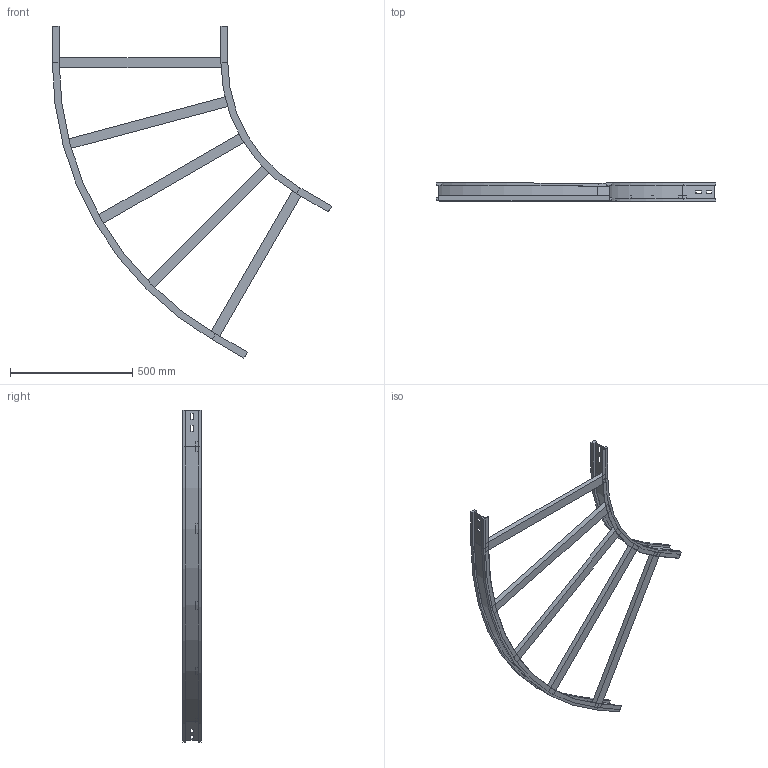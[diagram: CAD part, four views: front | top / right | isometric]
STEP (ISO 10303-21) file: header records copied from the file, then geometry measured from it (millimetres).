
FILE_DESCRIPTION (( 'STEP AP214' ), '1' );
FILE_NAME ('13S6C700.step', '2025-02-21T16:08:33', ( '' ), ( '' ), 'SwSTEP 2.0', 'SolidWorks 2023', '' );
FILE_SCHEMA (( 'AUTOMOTIVE_DESIGN' ));
Length unit declared in the file: millimetre
Products named in the file (4): TRAVERSINO_700; LONGH.ESTERNO 60°_H75_R600+700; 13S6C700; LONGH.INTERNO 60°_H75_R600
Assembly tree (7 placements, depth 2):
  13S6C700
    LONGH.INTERNO 60°_H75_R600
    LONGH.ESTERNO 60°_H75_R600+700
    TRAVERSINO_700  x5
Bounding box: 1143.4 x 75 x 1358.63 mm (x, y, z)
Volume: 4096212.5 mm3; surface area: 1068621.8 mm2
Topology: 7 solids, 7 shells, 138 faces, 324 edges, 200 vertices
Faces by surface type: plane 126, cylinder 12
Entity records: 3405 total; most frequent: CARTESIAN_POINT 568, ORIENTED_EDGE 552, DIRECTION 548, EDGE_CURVE 276, LINE 252, VECTOR 252, VERTEX_POINT 168, AXIS2_PLACEMENT_3D 148
